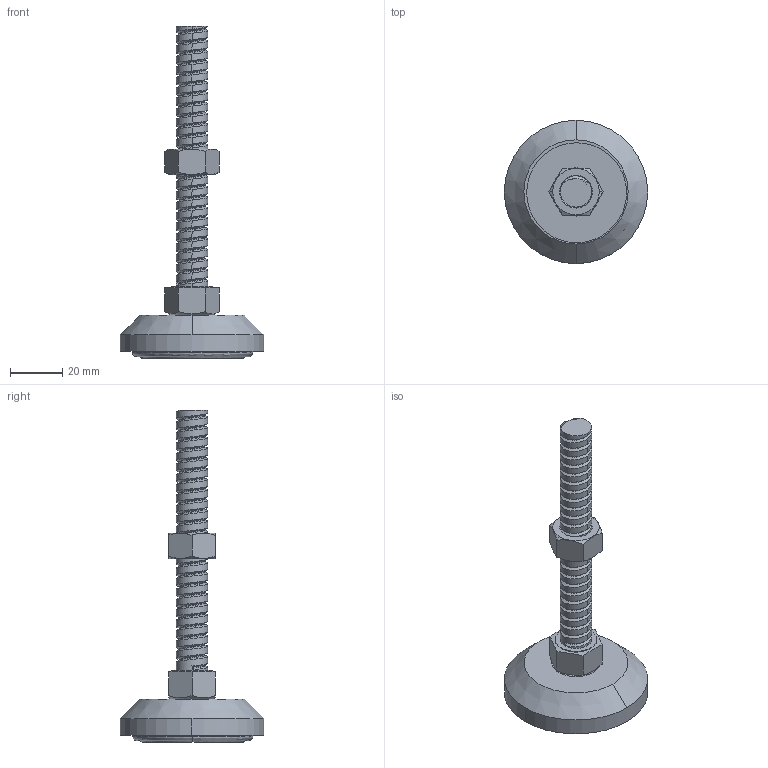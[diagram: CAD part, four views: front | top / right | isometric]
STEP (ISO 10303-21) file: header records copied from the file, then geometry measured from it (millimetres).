
FILE_DESCRIPTION (( 'STEP AP203' ), '1' );
FILE_NAME ('F-102-2-604-100.STEP', '2015-11-24T02:22:19', ( '' ), ( '' ), 'SwSTEP 2.0', 'SolidWorks 2014', '' );
FILE_SCHEMA (( 'CONFIG_CONTROL_DESIGN' ));
Length unit declared in the file: millimetre
Products named in the file (5): M12X100L-10調整螺絲; DK-08-50圓鐵蓋-M12-1; 50橡膠墊-4; M12螺帽; F-102-2-604-100
Assembly tree (4 placements, depth 2):
  F-102-2-604-100
    M12X100L-10調整螺絲
    DK-08-50圓鐵蓋-M12-1
    50橡膠墊-4
    M12螺帽
Bounding box: 55 x 55 x 127.45 mm (x, y, z)
Volume: 50580.4 mm3; surface area: 20482.9 mm2
Topology: 4 solids, 4 shells, 184 faces, 446 edges, 283 vertices
Faces by surface type: cylinder 77, cone 42, plane 37, bspline 28
Entity records: 12810 total; most frequent: CARTESIAN_POINT 8516, ORIENTED_EDGE 892, DIRECTION 688, EDGE_CURVE 446, VERTEX_POINT 283, AXIS2_PLACEMENT_3D 269, EDGE_LOOP 201, ADVANCED_FACE 184
